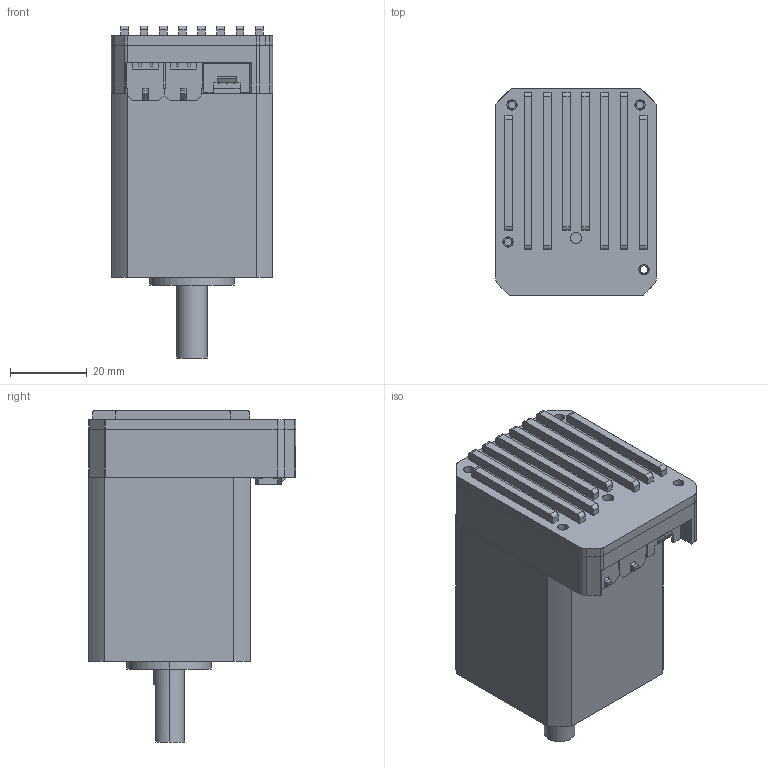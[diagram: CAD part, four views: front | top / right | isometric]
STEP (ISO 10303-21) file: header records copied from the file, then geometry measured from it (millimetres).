
FILE_DESCRIPTION (( 'STEP AP214' ), '1' );
FILE_NAME ('4248_FULL_STEP.STEP', '2023-04-05T07:01:09', ( 'shaun' ), ( '' ), 'SwSTEP 2.0', 'SolidWorks 2020', '' );
FILE_SCHEMA (( 'AUTOMOTIVE_DESIGN' ));
Length unit declared in the file: millimetre
Products named in the file (5): 42_PCB; 42_F_UPPER_20230305; 42_F_LOWER_20230305; 4248_BODY; 4248_FULL_STEP
Assembly tree (4 placements, depth 2):
  4248_FULL_STEP
    42_F_LOWER_20230305
    42_F_UPPER_20230305
    42_PCB
    4248_BODY
Bounding box: 42.2 x 54.1 x 86.5 mm (x, y, z)
Volume: 102884.1 mm3; surface area: 41692.2 mm2
Topology: 9 solids, 9 shells, 1114 faces, 2911 edges, 1876 vertices
Faces by surface type: plane 873, cylinder 233, cone 8
Entity records: 43066 total; most frequent: CARTESIAN_POINT 5908, ORIENTED_EDGE 5822, DIRECTION 5630, EDGE_CURVE 2911, LINE 2434, VECTOR 2434, VERTEX_POINT 1876, AXIS2_PLACEMENT_3D 1598
